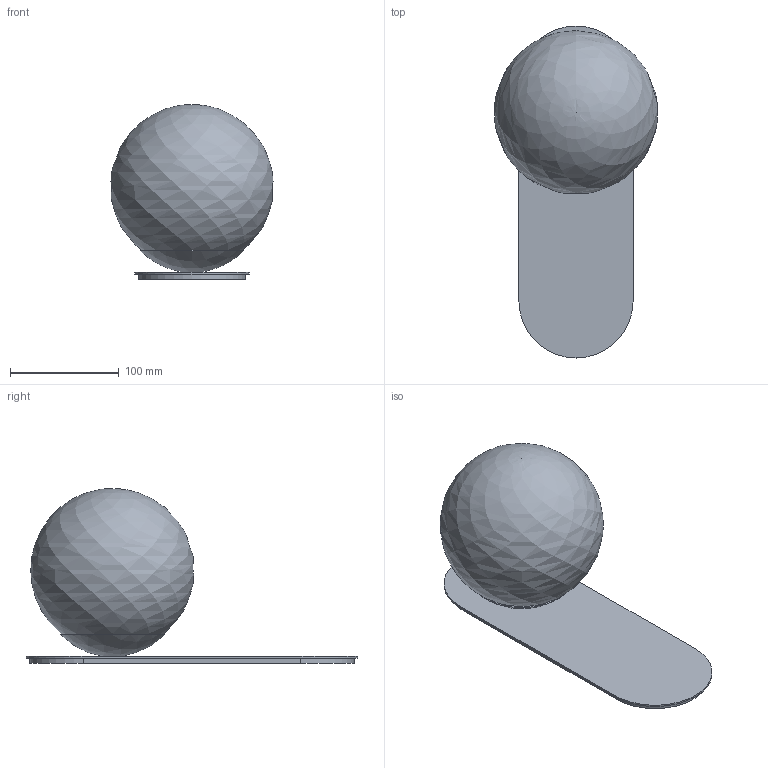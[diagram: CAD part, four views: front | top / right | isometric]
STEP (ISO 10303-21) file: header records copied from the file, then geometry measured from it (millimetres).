
FILE_DESCRIPTION(/* description */ (''),/* implementation_level */ '2;1');
FILE_NAME(/* name */ 'B652 Adrion Wall Sconce MD.stp',/* time_stamp */ '2022-10-12T15:42:12+02:00',/* author */ ('Mariusz Awariusz'),/* organization */ (''),/* preprocessor_version */ 'ST-DEVELOPER v19.2',/* originating_system */ 'Autodesk Inventor 2023',/* authorisation */ '');
FILE_SCHEMA (('AUTOMOTIVE_DESIGN { 1 0 10303 214 3 1 1 }'));
Length unit declared in the file: millimetre
Products named in the file (1): B652 Adrion Wall Sconce MD_jako część
Bounding box: 148.83 x 305 x 160.73 mm (x, y, z)
Volume: 322432.7 mm3; surface area: 269149.4 mm2
Topology: 4 solids, 4 shells, 21 faces, 43 edges, 28 vertices
Faces by surface type: plane 8, cylinder 6, sphere 2, torus 2, bspline 2, cone 1
Full cylindrical faces by diameter (mm): 16 x1, 50.221 x1
Entity records: 677 total; most frequent: CARTESIAN_POINT 179, DIRECTION 103, ORIENTED_EDGE 82, AXIS2_PLACEMENT_3D 42, EDGE_CURVE 41, VERTEX_POINT 28, EDGE_LOOP 23, CIRCLE 22
